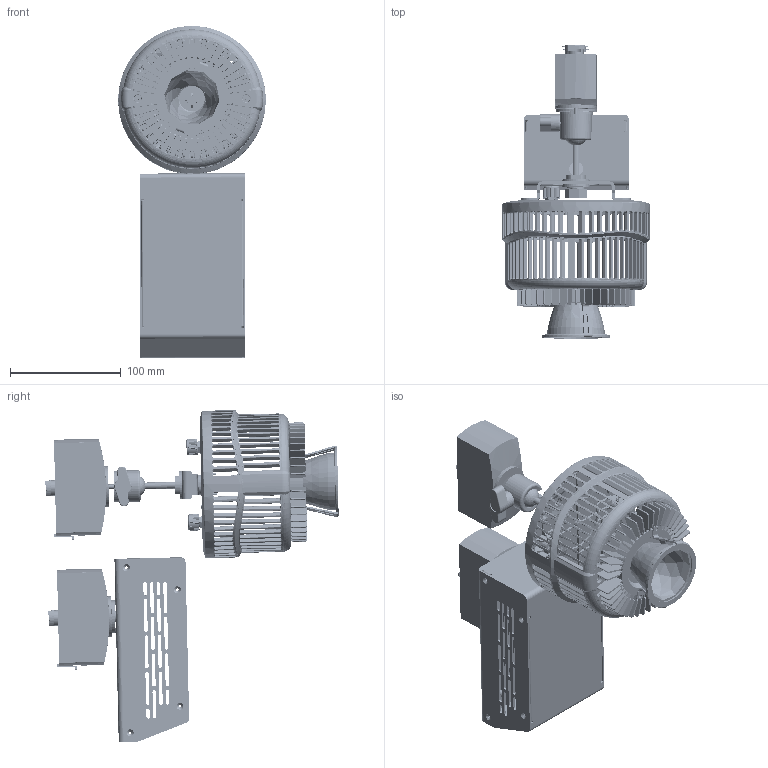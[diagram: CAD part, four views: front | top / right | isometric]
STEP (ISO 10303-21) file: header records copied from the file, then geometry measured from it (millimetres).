
FILE_DESCRIPTION (( 'STEP AP214' ), '1' );
FILE_NAME ('W500N-TJ-PS.STEP', '2024-02-01T22:53:27', ( '' ), ( '' ), 'SwSTEP 2.0', 'SolidWorks 2022', '' );
FILE_SCHEMA (( 'AUTOMOTIVE_DESIGN' ));
Length unit declared in the file: millimetre
Products named in the file (32): 5120530-XXX_A1_Assembly BOM, W500 Reflector Type_Reflector - 55D-BD; 5022693-XXX_A1_Bracket, 98.85x25x17.5, T=2.5mm___; 5021416_A1_Hex Nut, M10xP1.5, T8 SUS___; 5022189_A1_Plate, OD=48, ID=23, T=2.0mm___; 5120540-XXX_A1_Rear Panel, OD=133, T=13.65mm, W-Series_5120531-001 W500; 5020893-2010525020_ _Flat Washer, M10, ID10.5 OD25.0, T2 SUS 304___; 5022398-XXX_A1_Plug for W Series, 19x10x9.4mm_-002(Black); 5020757-002_A2_VR Washer, Kessil A360 Aquarium Light___; 5020897-2010216520_ _Helical Spring Washer Customized___; 62280-1343006_ _SCREW, PAN HEAD TROX W-THD LOCK, SUS-410, BLACK, M3xL6mm___; 5022708-XXX_A2_Ball Joint Axis, L=65.8mm___; 5022405-XXX_A1_Wing Knob Screws, M6xL8.0mm_-001; 5022443-002_A1_JUNO Trac Transfer Parts B___; 5047587-XXX_A1_Pendant Adapter for Juno Trac-Master (T Series)_Finish; 5047587-XXX_A1_Pendant Adapter for Juno Trac-Master (T Series)_Finish_2; 5120519-XXX_A3_Assembly BOM, Kessil W500 Power Box_TON(US)-PS; 5060069-XXX_A2_W series Reflector-35, OD=62, H=45mm___; 62282-5014005_ _Standard Types of Metric Set Screws, M4xL5, Black___; W500N-TJ-PS; 5022452-003_A3_Reflector Sink Holder, D108x14.35(H)mm (-004 is White)_-003(Black); 5022453-XXX_A1_35D Sink Holder B, 71.2x62.2x31.1(H)mm___; 5010177-XXX_A2_Assembly BOM, Kessil W500_55D-BD-[TEX]; 5120539-XXX_A1_Housing, OD=133, ID=121, T=78.1mm, For Reflector, Without Logo___; 5120522-XXX_A4_Assembly BOM, W360&W500 Light Mounting Type_TG; 5120529-XXX_A1_Assembly BOM, W500 Light Engine_Finish; 5021926-XXX_A2_KNOB, 18T, OD=14.9, ID=6, L=10MM_C1; 5022445-XXX_A1_DC Plug for W Series, D=12mm_-002(Black); 5022444_A1_Retaining M4 for JUNO, L=20mm___; 5022431-XXX_A1_Ball Joint Part A, L=23.7mm___; 5020757-001_A1_VR Nut, Kessil A360 Aquarium Light___; 5022427-XXX_A4_250W Power Box FRAME (TG&TEX&CLP TYPE), 165x95x64mm___; 5022424-XXX_A2_250W Power Box Cover (TG&TEX-PS&CLP&TJ TYPE), 165x92x62.5(H)mm___
Assembly tree (36 placements, depth 4):
  W500N-TJ-PS
    5120519-XXX_A3_Assembly BOM, Kessil W500 Power Box_TON(US)-PS
      5022427-XXX_A4_250W Power Box FRAME (TG&TEX&CLP TYPE), 165x95x64mm___
      5047587-XXX_A1_Pendant Adapter for Juno Trac-Master (T Series)_Finish_2
      5022443-002_A1_JUNO Trac Transfer Parts B___
      5022424-XXX_A2_250W Power Box Cover (TG&TEX-PS&CLP&TJ TYPE), 165x92x62.5(H)mm___
    5010177-XXX_A2_Assembly BOM, Kessil W500_55D-BD-[TEX]
      5120529-XXX_A1_Assembly BOM, W500 Light Engine_Finish
        5120540-XXX_A1_Rear Panel, OD=133, T=13.65mm, W-Series_5120531-001 W500
        5022398-XXX_A1_Plug for W Series, 19x10x9.4mm_-002(Black)
        5022445-XXX_A1_DC Plug for W Series, D=12mm_-002(Black)
        5020757-002_A2_VR Washer, Kessil A360 Aquarium Light___  x2
        5020757-001_A1_VR Nut, Kessil A360 Aquarium Light___  x2
        5021926-XXX_A2_KNOB, 18T, OD=14.9, ID=6, L=10MM_C1  x2
      5120530-XXX_A1_Assembly BOM, W500 Reflector Type_Reflector - 55D-BD
        5120539-XXX_A1_Housing, OD=133, ID=121, T=78.1mm, For Reflector, Without Logo___
        5022189_A1_Plate, OD=48, ID=23, T=2.0mm___
        62280-1343006_ _SCREW, PAN HEAD TROX W-THD LOCK, SUS-410, BLACK, M3xL6mm___  x2
        5022452-003_A3_Reflector Sink Holder, D108x14.35(H)mm (-004 is White)_-003(Black)
        5022453-XXX_A1_35D Sink Holder B, 71.2x62.2x31.1(H)mm___
        5060069-XXX_A2_W series Reflector-35, OD=62, H=45mm___
      5120522-XXX_A4_Assembly BOM, W360&W500 Light Mounting Type_TG
        5022431-XXX_A1_Ball Joint Part A, L=23.7mm___
        5022708-XXX_A2_Ball Joint Axis, L=65.8mm___
        62282-5014005_ _Standard Types of Metric Set Screws, M4xL5, Black___
        5022405-XXX_A1_Wing Knob Screws, M6xL8.0mm_-001
        5022693-XXX_A1_Bracket, 98.85x25x17.5, T=2.5mm___
        5047587-XXX_A1_Pendant Adapter for Juno Trac-Master (T Series)_Finish
        5022444_A1_Retaining M4 for JUNO, L=20mm___
        5020893-2010525020_ _Flat Washer, M10, ID10.5 OD25.0, T2 SUS 304___  x2
        5020897-2010216520_ _Helical Spring Washer Customized___
        5021416_A1_Hex Nut, M10xP1.5, T8 SUS___
Bounding box: 133 x 264.53 x 299.39 mm (x, y, z)
Volume: 378488.8 mm3; surface area: 412398.7 mm2
Topology: 36 solids, 36 shells, 6665 faces, 18251 edges, 11585 vertices
Faces by surface type: plane 2489, cylinder 2375, bspline 857, cone 517, torus 411, sphere 16
Entity records: 271611 total; most frequent: CARTESIAN_POINT 116901, ORIENTED_EDGE 33840, DIRECTION 28344, EDGE_CURVE 16920, VERTEX_POINT 10715, AXIS2_PLACEMENT_3D 10400, LINE 7544, VECTOR 7544
